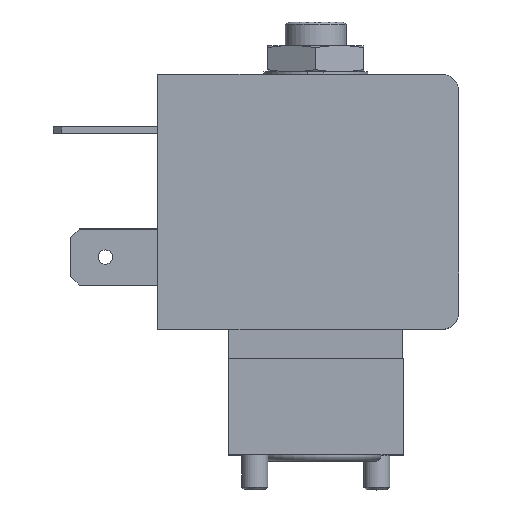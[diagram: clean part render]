
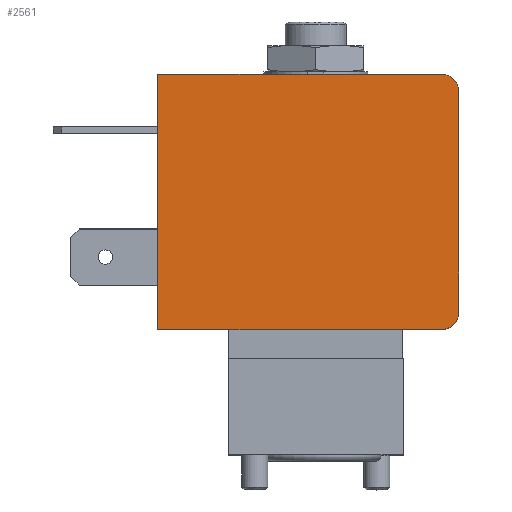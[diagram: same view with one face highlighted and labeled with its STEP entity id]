
A CAD part, top view. The second image highlights one B-rep face of the part: STEP entity #2561.
In plain terms, the highlighted planar face has unit normal (0, 0, 1).
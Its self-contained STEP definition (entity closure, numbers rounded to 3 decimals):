
#82=LINE('',#3362,#244);
#104=LINE('',#3412,#266);
#111=LINE('',#3426,#273);
#115=LINE('',#3438,#277);
#244=VECTOR('',#2856,1000.);
#266=VECTOR('',#2886,1000.);
#273=VECTOR('',#2895,1000.);
#277=VECTOR('',#2907,1000.);
#455=ORIENTED_EDGE('',*,*,#894,.T.);
#456=ORIENTED_EDGE('',*,*,#919,.T.);
#457=ORIENTED_EDGE('',*,*,#926,.T.);
#458=ORIENTED_EDGE('',*,*,#929,.T.);
#459=ORIENTED_EDGE('',*,*,#932,.T.);
#460=ORIENTED_EDGE('',*,*,#934,.T.);
#894=EDGE_CURVE('',#1138,#1137,#82,.T.);
#919=EDGE_CURVE('',#1137,#1161,#104,.T.);
#926=EDGE_CURVE('',#1161,#1167,#111,.T.);
#929=EDGE_CURVE('',#1167,#1169,#1308,.T.);
#932=EDGE_CURVE('',#1169,#1171,#115,.T.);
#934=EDGE_CURVE('',#1171,#1138,#1310,.T.);
#1137=VERTEX_POINT('',#3361);
#1138=VERTEX_POINT('',#3363);
#1161=VERTEX_POINT('',#3411);
#1167=VERTEX_POINT('',#3425);
#1169=VERTEX_POINT('',#3431);
#1171=VERTEX_POINT('',#3437);
#1308=CIRCLE('',#2684,2.);
#1310=CIRCLE('',#2688,2.);
#1373=EDGE_LOOP('',(#455,#456,#457,#458,#459,#460));
#1531=FACE_BOUND('',#1373,.T.);
#1680=PLANE('',#2689);
#2561=ADVANCED_FACE('',(#1531),#1680,.T.);
#2684=AXIS2_PLACEMENT_3D('',#3432,#2901,#2902);
#2688=AXIS2_PLACEMENT_3D('',#3441,#2912,#2913);
#2689=AXIS2_PLACEMENT_3D('',#3442,#2914,#2915);
#2856=DIRECTION('',(-1.,0.,0.));
#2886=DIRECTION('',(0.,-1.,0.));
#2895=DIRECTION('',(1.,0.,0.));
#2901=DIRECTION('',(0.,0.,1.));
#2902=DIRECTION('',(1.,0.,0.));
#2907=DIRECTION('',(0.,1.,0.));
#2912=DIRECTION('',(0.,0.,1.));
#2913=DIRECTION('',(1.,0.,0.));
#2914=DIRECTION('',(0.,0.,1.));
#2915=DIRECTION('',(1.,0.,0.));
#3361=CARTESIAN_POINT('',(-18.1,29.25,12.3));
#3362=CARTESIAN_POINT('',(14.4,29.25,12.3));
#3363=CARTESIAN_POINT('',(14.4,29.25,12.3));
#3411=CARTESIAN_POINT('',(-18.1,0.,12.3));
#3412=CARTESIAN_POINT('',(-18.1,29.25,12.3));
#3425=CARTESIAN_POINT('',(14.4,0.,12.3));
#3426=CARTESIAN_POINT('',(-18.1,0.,12.3));
#3431=CARTESIAN_POINT('',(16.4,2.,12.3));
#3432=CARTESIAN_POINT('',(14.4,2.,12.3));
#3437=CARTESIAN_POINT('',(16.4,27.25,12.3));
#3438=CARTESIAN_POINT('',(16.4,2.,12.3));
#3441=CARTESIAN_POINT('',(14.4,27.25,12.3));
#3442=CARTESIAN_POINT('',(14.4,2.,12.3));
